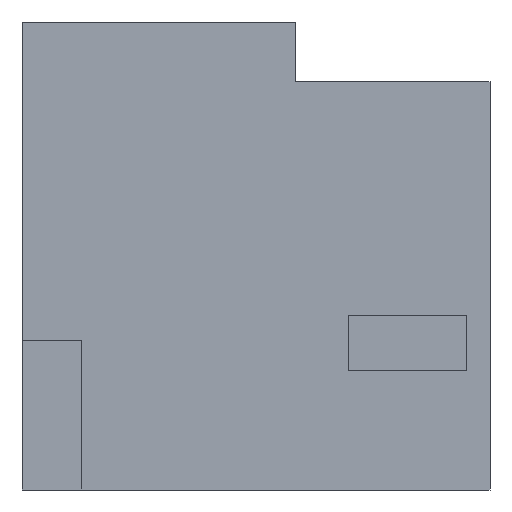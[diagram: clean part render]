
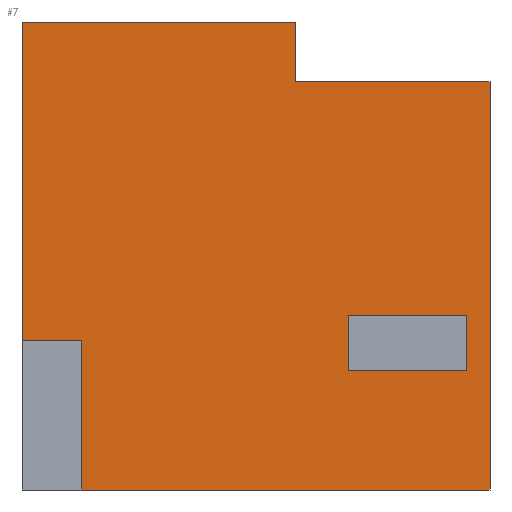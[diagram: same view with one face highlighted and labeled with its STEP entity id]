
A CAD part, left-side view. The second image highlights one B-rep face of the part: STEP entity #7.
In plain terms, the highlighted planar face has unit normal (-1, 0, 0).
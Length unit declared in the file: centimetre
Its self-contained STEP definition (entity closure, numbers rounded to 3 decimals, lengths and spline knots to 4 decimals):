
#7 = ADVANCED_FACE ( 'NONE', ( #315, #163 ), #1108, .F. ) ;
#11 = DIRECTION ( 'NONE',  ( 0., 0., -1. ) ) ;
#27 = CARTESIAN_POINT ( 'NONE',  ( 0., 1000., 1000. ) ) ;
#30 = DIRECTION ( 'NONE',  ( 0., 0., -1. ) ) ;
#72 = LINE ( 'NONE', #179, #997 ) ;
#73 = EDGE_CURVE ( 'NONE', #606, #462, #219, .T. ) ;
#78 = VERTEX_POINT ( 'NONE', #740 ) ;
#80 = VECTOR ( 'NONE', #842, 100. ) ;
#85 = ORIENTED_EDGE ( 'NONE', *, *, #680, .F. ) ;
#97 = VECTOR ( 'NONE', #425, 100. ) ;
#103 = VERTEX_POINT ( 'NONE', #722 ) ;
#113 = CARTESIAN_POINT ( 'NONE',  ( 0., 1000., 320.0738 ) ) ;
#123 = CARTESIAN_POINT ( 'NONE',  ( 0., 415.7411, 1000. ) ) ;
#124 = EDGE_CURVE ( 'NONE', #816, #599, #72, .T. ) ;
#130 = EDGE_CURVE ( 'NONE', #426, #355, #859, .T. ) ;
#140 = DIRECTION ( 'NONE',  ( 0., 0., -1. ) ) ;
#149 = CARTESIAN_POINT ( 'NONE',  ( 0., 50.0037, 373.4139 ) ) ;
#163 = FACE_OUTER_BOUND ( 'NONE', #405, .T. ) ;
#179 = CARTESIAN_POINT ( 'NONE',  ( 0., 1000., 0. ) ) ;
#200 = DIRECTION ( 'NONE',  ( 0., 1., 0. ) ) ;
#219 = LINE ( 'NONE', #392, #1106 ) ;
#226 = CARTESIAN_POINT ( 'NONE',  ( 0., 872.1237, 320.0738 ) ) ;
#229 = VERTEX_POINT ( 'NONE', #113 ) ;
#252 = DIRECTION ( 'NONE',  ( 0., -1., 0. ) ) ;
#257 = DIRECTION ( 'NONE',  ( 0., 1., 0. ) ) ;
#258 = CARTESIAN_POINT ( 'NONE',  ( 0., 415.7411, 872.0355 ) ) ;
#269 = VECTOR ( 'NONE', #11, 100. ) ;
#287 = DIRECTION ( 'NONE',  ( 0., 0., 1. ) ) ;
#311 = VECTOR ( 'NONE', #257, 100. ) ;
#315 = FACE_BOUND ( 'NONE', #676, .T. ) ;
#319 = ORIENTED_EDGE ( 'NONE', *, *, #745, .T. ) ;
#331 = VERTEX_POINT ( 'NONE', #485 ) ;
#337 = ORIENTED_EDGE ( 'NONE', *, *, #774, .F. ) ;
#339 = ORIENTED_EDGE ( 'NONE', *, *, #130, .F. ) ;
#355 = VERTEX_POINT ( 'NONE', #669 ) ;
#382 = DIRECTION ( 'NONE',  ( 0., 0., -1. ) ) ;
#392 = CARTESIAN_POINT ( 'NONE',  ( 0., 50.0037, 255.4612 ) ) ;
#405 = EDGE_LOOP ( 'NONE', ( #85, #339, #586, #893, #319, #476, #935, #648 ) ) ;
#408 = VECTOR ( 'NONE', #30, 100. ) ;
#425 = DIRECTION ( 'NONE',  ( 0., -1., 0. ) ) ;
#426 = VERTEX_POINT ( 'NONE', #837 ) ;
#443 = LINE ( 'NONE', #863, #311 ) ;
#453 = CARTESIAN_POINT ( 'NONE',  ( 0., 872.1237, 320.0738 ) ) ;
#462 = VERTEX_POINT ( 'NONE', #149 ) ;
#476 = ORIENTED_EDGE ( 'NONE', *, *, #535, .F. ) ;
#477 = CARTESIAN_POINT ( 'NONE',  ( 0., 415.7411, 872.0355 ) ) ;
#479 = CARTESIAN_POINT ( 'NONE',  ( 0., 50.0037, 373.4139 ) ) ;
#485 = CARTESIAN_POINT ( 'NONE',  ( 0., 302.7608, 373.4139 ) ) ;
#512 = LINE ( 'NONE', #855, #97 ) ;
#531 = CARTESIAN_POINT ( 'NONE',  ( 0., 50.0037, 255.4612 ) ) ;
#535 = EDGE_CURVE ( 'NONE', #649, #229, #443, .T. ) ;
#544 = CARTESIAN_POINT ( 'NONE',  ( 0., 50.0037, 255.4612 ) ) ;
#583 = DIRECTION ( 'NONE',  ( 0., 0., -1. ) ) ;
#586 = ORIENTED_EDGE ( 'NONE', *, *, #1123, .F. ) ;
#599 = VERTEX_POINT ( 'NONE', #940 ) ;
#606 = VERTEX_POINT ( 'NONE', #531 ) ;
#632 = DIRECTION ( 'NONE',  ( 0., -1., 0. ) ) ;
#644 = CARTESIAN_POINT ( 'NONE',  ( 0., 0., 1000. ) ) ;
#648 = ORIENTED_EDGE ( 'NONE', *, *, #124, .T. ) ;
#649 = VERTEX_POINT ( 'NONE', #453 ) ;
#669 = CARTESIAN_POINT ( 'NONE',  ( 0., 0., 872.0355 ) ) ;
#676 = EDGE_LOOP ( 'NONE', ( #821, #734, #776, #337 ) ) ;
#680 = EDGE_CURVE ( 'NONE', #355, #599, #883, .T. ) ;
#693 = EDGE_CURVE ( 'NONE', #78, #606, #964, .T. ) ;
#704 = VECTOR ( 'NONE', #728, 100. ) ;
#707 = CARTESIAN_POINT ( 'NONE',  ( 0., 302.7608, 255.4612 ) ) ;
#722 = CARTESIAN_POINT ( 'NONE',  ( 0., 1000., 1000. ) ) ;
#728 = DIRECTION ( 'NONE',  ( 0., 0., -1. ) ) ;
#734 = ORIENTED_EDGE ( 'NONE', *, *, #693, .F. ) ;
#737 = EDGE_CURVE ( 'NONE', #331, #78, #1070, .T. ) ;
#740 = CARTESIAN_POINT ( 'NONE',  ( 0., 302.7608, 255.4612 ) ) ;
#745 = EDGE_CURVE ( 'NONE', #103, #229, #794, .T. ) ;
#770 = VERTEX_POINT ( 'NONE', #123 ) ;
#774 = EDGE_CURVE ( 'NONE', #462, #331, #1053, .T. ) ;
#776 = ORIENTED_EDGE ( 'NONE', *, *, #737, .F. ) ;
#794 = LINE ( 'NONE', #27, #269 ) ;
#816 = VERTEX_POINT ( 'NONE', #907 ) ;
#821 = ORIENTED_EDGE ( 'NONE', *, *, #73, .F. ) ;
#830 = DIRECTION ( 'NONE',  ( 1., 0., 0. ) ) ;
#837 = CARTESIAN_POINT ( 'NONE',  ( 0., 415.7411, 872.0355 ) ) ;
#842 = DIRECTION ( 'NONE',  ( 0., -1., 0. ) ) ;
#855 = CARTESIAN_POINT ( 'NONE',  ( 0., 1000., 1000. ) ) ;
#859 = LINE ( 'NONE', #258, #80 ) ;
#863 = CARTESIAN_POINT ( 'NONE',  ( 0., 872.1237, 320.0738 ) ) ;
#883 = LINE ( 'NONE', #644, #704 ) ;
#886 = VECTOR ( 'NONE', #632, 100. ) ;
#893 = ORIENTED_EDGE ( 'NONE', *, *, #1088, .F. ) ;
#905 = VECTOR ( 'NONE', #382, 100. ) ;
#907 = CARTESIAN_POINT ( 'NONE',  ( 0., 872.1237, 0. ) ) ;
#911 = CARTESIAN_POINT ( 'NONE',  ( 0., 1000., 1000. ) ) ;
#912 = EDGE_CURVE ( 'NONE', #649, #816, #1078, .T. ) ;
#924 = VECTOR ( 'NONE', #583, 100. ) ;
#935 = ORIENTED_EDGE ( 'NONE', *, *, #912, .T. ) ;
#940 = CARTESIAN_POINT ( 'NONE',  ( 0., 0., 0. ) ) ;
#964 = LINE ( 'NONE', #544, #886 ) ;
#974 = LINE ( 'NONE', #477, #408 ) ;
#989 = VECTOR ( 'NONE', #200, 100. ) ;
#997 = VECTOR ( 'NONE', #252, 100. ) ;
#1037 = AXIS2_PLACEMENT_3D ( 'NONE', #911, #830, #140 ) ;
#1053 = LINE ( 'NONE', #479, #989 ) ;
#1070 = LINE ( 'NONE', #707, #905 ) ;
#1078 = LINE ( 'NONE', #226, #924 ) ;
#1088 = EDGE_CURVE ( 'NONE', #103, #770, #512, .T. ) ;
#1106 = VECTOR ( 'NONE', #287, 100. ) ;
#1108 = PLANE ( 'NONE',  #1037 ) ;
#1123 = EDGE_CURVE ( 'NONE', #770, #426, #974, .T. ) ;
